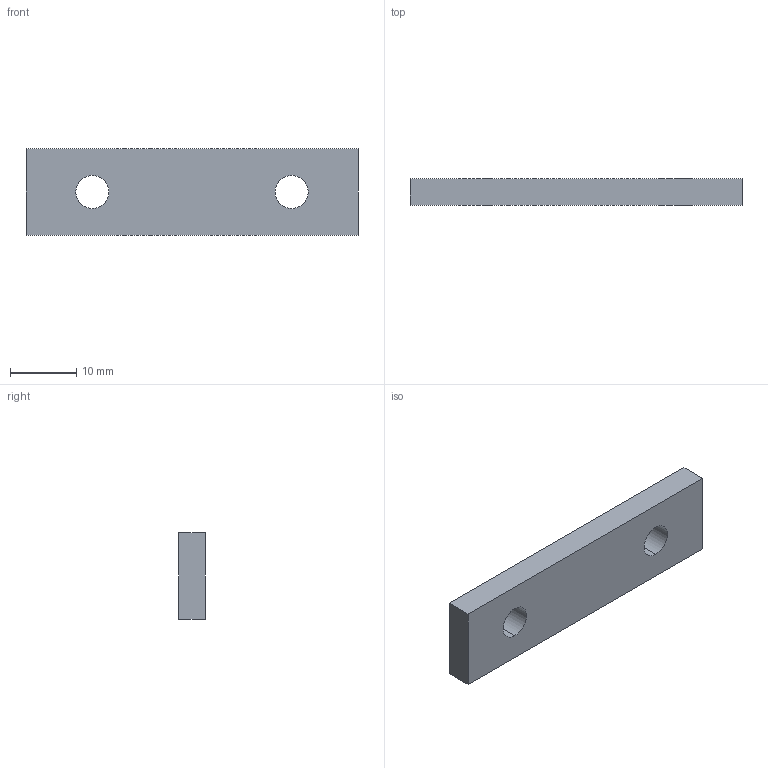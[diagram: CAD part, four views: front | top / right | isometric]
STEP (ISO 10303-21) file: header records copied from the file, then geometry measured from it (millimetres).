
FILE_DESCRIPTION (( 'STEP AP214' ), '1' );
FILE_NAME ('FBCS 13x50.step', '2017-04-05T07:36:44', ( '' ), ( '' ), 'SwSTEP 2.0', 'SolidWorks 2015', '' );
FILE_SCHEMA (( 'AUTOMOTIVE_DESIGN' ));
Length unit declared in the file: millimetre
Products named in the file (1): FBCS 13x50
Bounding box: 50 x 4 x 13 mm (x, y, z)
Volume: 2442.9 mm3; surface area: 1851.1 mm2
Topology: 1 solids, 1 shells, 10 faces, 24 edges, 16 vertices
Faces by surface type: plane 6, cylinder 4
Entity records: 382 total; most frequent: DIRECTION 54, CARTESIAN_POINT 51, ORIENTED_EDGE 48, EDGE_CURVE 24, AXIS2_PLACEMENT_3D 19, LINE 16, VECTOR 16, VERTEX_POINT 16
